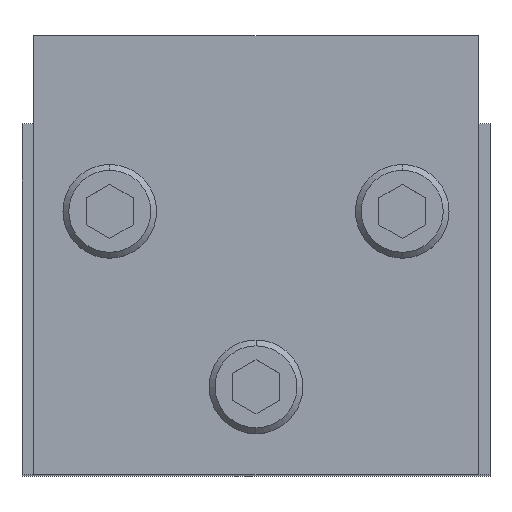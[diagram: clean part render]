
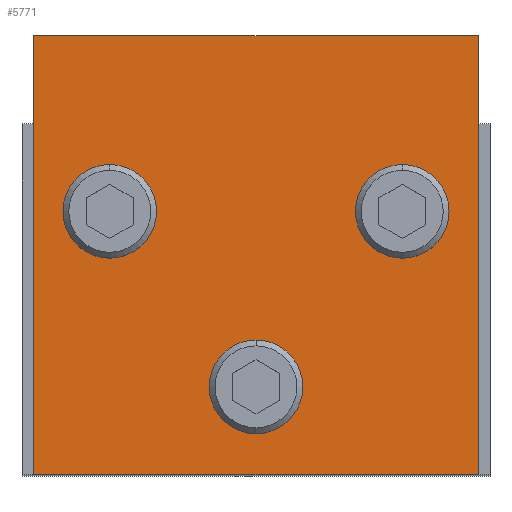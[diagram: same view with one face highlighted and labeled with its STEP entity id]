
A CAD part, top view. The second image highlights one B-rep face of the part: STEP entity #5771.
In plain terms, the highlighted planar face has unit normal (0, 0, 1).
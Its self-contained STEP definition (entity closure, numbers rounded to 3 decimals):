
#5546=VERTEX_POINT(' ',#5547);
#5547=CARTESIAN_POINT('',(38.,75.,135.));
#5548=VERTEX_POINT(' ',#5549);
#5549=CARTESIAN_POINT('',(-38.,75.,135.));
#5550=VERTEX_POINT(' ',#5551);
#5551=CARTESIAN_POINT('',(-38.,0.,135.));
#5552=VERTEX_POINT(' ',#5553);
#5553=CARTESIAN_POINT('',(38.,0.,135.));
#5554=VERTEX_POINT(' ',#5555);
#5555=CARTESIAN_POINT('',(0.,20.5,135.));
#5556=VERTEX_POINT(' ',#5557);
#5557=CARTESIAN_POINT('',(0.,9.5,135.));
#5558=VERTEX_POINT(' ',#5559);
#5559=CARTESIAN_POINT('',(-25.,50.5,135.));
#5560=VERTEX_POINT(' ',#5561);
#5561=CARTESIAN_POINT('',(-25.,39.5,135.));
#5562=VERTEX_POINT(' ',#5563);
#5563=CARTESIAN_POINT('',(25.,50.5,135.));
#5564=VERTEX_POINT(' ',#5565);
#5565=CARTESIAN_POINT('',(25.,39.5,135.));
#5586=LINE('',#5587,#5588);
#5587=CARTESIAN_POINT('',(38.,75.,135.));
#5588=VECTOR('',#5589,1.);
#5589=DIRECTION('',(-1.,0.,0.));
#5590=EDGE_CURVE(' ',#5546,#5548,#5586,.T.);
#5591=LINE('',#5592,#5593);
#5592=CARTESIAN_POINT('',(-38.,75.,135.));
#5593=VECTOR('',#5594,1.);
#5594=DIRECTION('',(0.,-1.,0.));
#5595=EDGE_CURVE(' ',#5548,#5550,#5591,.T.);
#5596=LINE('',#5597,#5598);
#5597=CARTESIAN_POINT('',(-38.,0.,135.));
#5598=VECTOR('',#5599,1.);
#5599=DIRECTION('',(1.,0.,0.));
#5600=EDGE_CURVE(' ',#5550,#5552,#5596,.T.);
#5601=LINE('',#5602,#5603);
#5602=CARTESIAN_POINT('',(38.,0.,135.));
#5603=VECTOR('',#5604,1.);
#5604=DIRECTION('',(0.,1.,0.));
#5605=EDGE_CURVE(' ',#5552,#5546,#5601,.T.);
#5606=CIRCLE('',#5607,5.5);
#5607=AXIS2_PLACEMENT_3D('',#5608,#5609,#5610);
#5608=CARTESIAN_POINT('',(0.,15.,135.));
#5609=DIRECTION('',(0.,0.,-1.));
#5610=DIRECTION('',(-1.,0.,0.));
#5611=EDGE_CURVE(' ',#5554,#5556,#5606,.T.);
#5612=CIRCLE('',#5613,5.5);
#5613=AXIS2_PLACEMENT_3D('',#5614,#5615,#5616);
#5614=CARTESIAN_POINT('',(0.,15.,135.));
#5615=DIRECTION('',(0.,0.,-1.));
#5616=DIRECTION('',(1.,0.,0.));
#5617=EDGE_CURVE(' ',#5556,#5554,#5612,.T.);
#5618=CIRCLE('',#5619,5.5);
#5619=AXIS2_PLACEMENT_3D('',#5620,#5621,#5622);
#5620=CARTESIAN_POINT('',(-25.,45.,135.));
#5621=DIRECTION('',(0.,0.,-1.));
#5622=DIRECTION('',(-1.,0.,0.));
#5623=EDGE_CURVE(' ',#5558,#5560,#5618,.T.);
#5624=CIRCLE('',#5625,5.5);
#5625=AXIS2_PLACEMENT_3D('',#5626,#5627,#5628);
#5626=CARTESIAN_POINT('',(-25.,45.,135.));
#5627=DIRECTION('',(0.,0.,-1.));
#5628=DIRECTION('',(1.,0.,0.));
#5629=EDGE_CURVE(' ',#5560,#5558,#5624,.T.);
#5630=CIRCLE('',#5631,5.5);
#5631=AXIS2_PLACEMENT_3D('',#5632,#5633,#5634);
#5632=CARTESIAN_POINT('',(25.,45.,135.));
#5633=DIRECTION('',(0.,0.,-1.));
#5634=DIRECTION('',(-1.,0.,0.));
#5635=EDGE_CURVE(' ',#5562,#5564,#5630,.T.);
#5636=CIRCLE('',#5637,5.5);
#5637=AXIS2_PLACEMENT_3D('',#5638,#5639,#5640);
#5638=CARTESIAN_POINT('',(25.,45.,135.));
#5639=DIRECTION('',(0.,0.,-1.));
#5640=DIRECTION('',(1.,0.,0.));
#5641=EDGE_CURVE(' ',#5564,#5562,#5636,.T.);
#5748=ORIENTED_EDGE('',*,*,#5590,.T.);
#5749=ORIENTED_EDGE('',*,*,#5595,.T.);
#5750=ORIENTED_EDGE('',*,*,#5600,.T.);
#5751=ORIENTED_EDGE('',*,*,#5605,.T.);
#5752=EDGE_LOOP('',(#5748,#5749,#5750,#5751));
#5753=FACE_OUTER_BOUND('',#5752,.T.);
#5754=ORIENTED_EDGE('',*,*,#5611,.T.);
#5755=ORIENTED_EDGE('',*,*,#5617,.T.);
#5756=EDGE_LOOP('',(#5754,#5755));
#5757=FACE_BOUND('',#5756,.T.);
#5758=ORIENTED_EDGE('',*,*,#5623,.T.);
#5759=ORIENTED_EDGE('',*,*,#5629,.T.);
#5760=EDGE_LOOP('',(#5758,#5759));
#5761=FACE_BOUND('',#5760,.T.);
#5762=ORIENTED_EDGE('',*,*,#5635,.T.);
#5763=ORIENTED_EDGE('',*,*,#5641,.T.);
#5764=EDGE_LOOP('',(#5762,#5763));
#5765=FACE_BOUND('',#5764,.T.);
#5766=PLANE('',#5767);
#5767=AXIS2_PLACEMENT_3D('',#5768,#5769,#5770);
#5768=CARTESIAN_POINT('',(38.,75.,135.));
#5769=DIRECTION('',(0.,0.,1.));
#5770=DIRECTION('',(1.,0.,0.));
#5771=ADVANCED_FACE('',(#5753,#5757,#5761,#5765),#5766,.T.);
